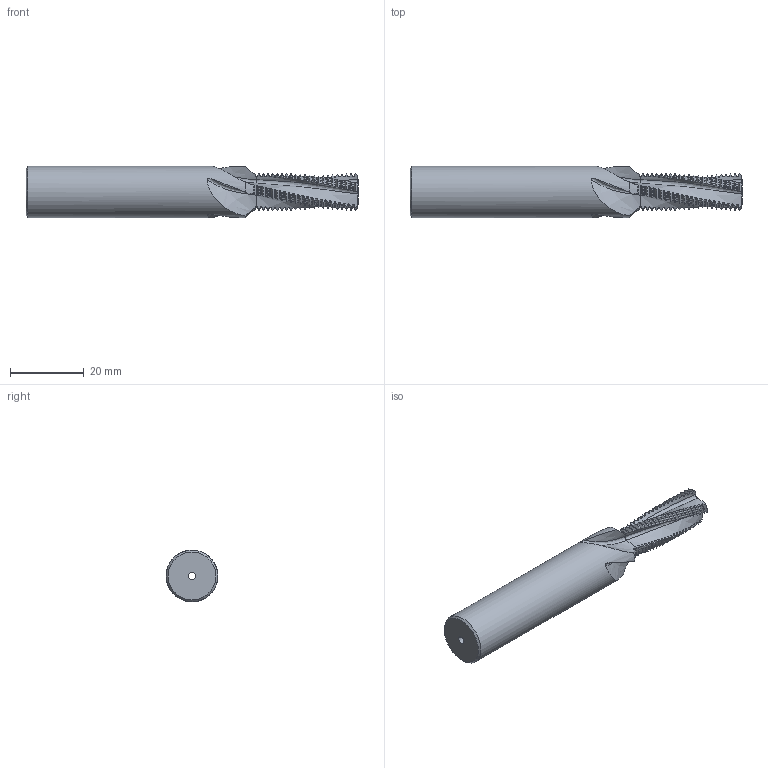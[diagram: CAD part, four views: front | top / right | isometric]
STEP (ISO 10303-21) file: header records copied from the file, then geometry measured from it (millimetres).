
FILE_DESCRIPTION(/* description */ (''),/* implementation_level */ '2;1');
FILE_NAME(/* name */ '00036366-STEP',/* time_stamp */ '2024-02-14T08:48:26+01:00',/* author */ (''),/* organization */ (''),/* preprocessor_version */ 'ST-DEVELOPER v16.5',/* originating_system */ 'HiCAD 2017 2201.0 Build 268',/* authorisation */ '');
FILE_SCHEMA (('AUTOMOTIVE_DESIGN { 1 0 10303 214 1 1 1 1 }'));
Products named in the file (2): Root; ROTATIONSTEIL_1
Assembly tree (1 placements, depth 2):
  Root
    ROTATIONSTEIL_1
Bounding box: 90 x 14 x 14 mm (x, y, z)
Volume: 9645.3 mm3; surface area: 4663.4 mm2
Topology: 1 solids, 1 shells, 577 faces, 1724 edges, 1149 vertices
Faces by surface type: cylinder 186, cone 185, torus 180, bspline 24, plane 2
Full cylindrical faces by diameter (mm): 2 x1, 14 x1
Entity records: 58586 total; most frequent: CARTESIAN_POINT 28897, PRESENTATION_STYLE_ASSIGNMENT 3435, COLOUR_RGB 3435, DRAUGHTING_PRE_DEFINED_CURVE_FONT 3434, CURVE_STYLE 3434, OVER_RIDING_STYLED_ITEM 3434, ORIENTED_EDGE 3434, DIRECTION 2224
